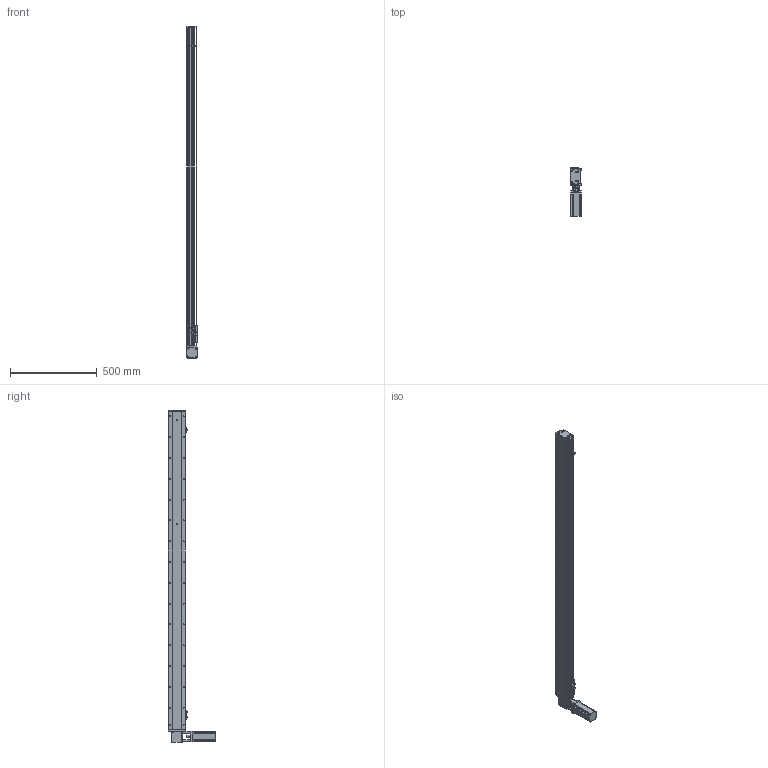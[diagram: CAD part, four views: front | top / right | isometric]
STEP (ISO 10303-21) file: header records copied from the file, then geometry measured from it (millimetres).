
FILE_DESCRIPTION (( 'STEP AP214' ), '1' );
FILE_NAME ('KSD100B-S1650-MLT-CM.STEP', '2019-11-11T05:32:35', ( '微软用户' ), ( '微软中国' ), 'SwSTEP 2.0', 'SolidWorks 2014', '' );
FILE_SCHEMA (( 'AUTOMOTIVE_DESIGN' ));
Length unit declared in the file: millimetre
Products named in the file (12): 100遵傷啣肮祭湍; 100宽底板半封闭同步带1650行程; KSD100B-S1650-MLT-CM; 100宽安装板同步带带电机座400W,86; 100遵鎮湛假蚾啣1 ; 100宽防尘板1650行程-同步带; U倰嫖萇EEㄜSX672; 覜茼え100遵圉猾敕; 台达ECMA－C20604AS伺服电机; 100宽马达安装板同步带右; 100宽同步带安装板半封闭; 100宽马达安装板同步带
Assembly tree (13 placements, depth 2):
  KSD100B-S1650-MLT-CM
    100宽底板半封闭同步带1650行程
    100遵傷啣肮祭湍
    100宽马达安装板同步带
    100宽同步带安装板半封闭
    100宽马达安装板同步带右
    台达ECMA－C20604AS伺服电机
    覜茼え100遵圉猾敕
    U倰嫖萇EEㄜSX672  x3
    100宽防尘板1650行程-同步带
    100遵鎮湛假蚾啣1 
    100宽安装板同步带带电机座400W,86
Bounding box: 61 x 275 x 1915 mm (x, y, z)
Volume: 3978080.3 mm3; surface area: 1339990.3 mm2
Topology: 14 solids, 14 shells, 1652 faces, 4681 edges, 2947 vertices
Faces by surface type: cylinder 870, plane 599, cone 183
Entity records: 59893 total; most frequent: CARTESIAN_POINT 12972, DIRECTION 8185, ORIENTED_EDGE 7902, EDGE_CURVE 3951, AXIS2_PLACEMENT_3D 3034, VERTEX_POINT 2571, LINE 2117, VECTOR 2117
